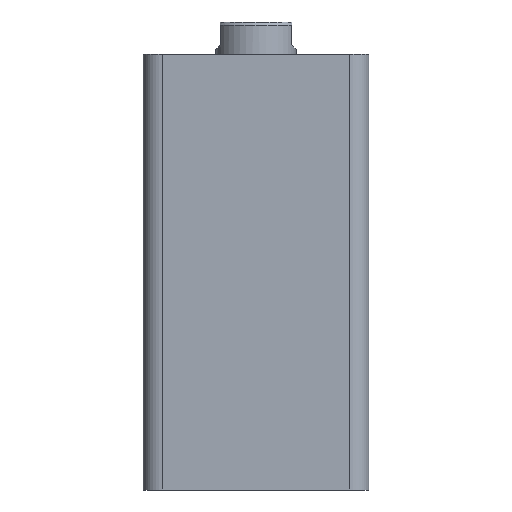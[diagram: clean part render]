
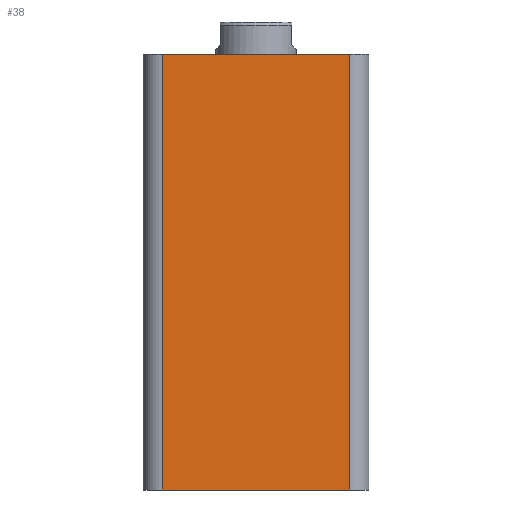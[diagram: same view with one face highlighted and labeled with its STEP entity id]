
A CAD part, front view. The second image highlights one B-rep face of the part: STEP entity #38.
In plain terms, the highlighted planar face has unit normal (0, -1, 0).
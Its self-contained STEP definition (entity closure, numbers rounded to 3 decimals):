
#38 = ADVANCED_FACE ( 'NONE', ( #1951 ), #2255, .F. ) ;
#390 = ORIENTED_EDGE ( 'NONE', *, *, #1489, .T. ) ;
#392 = ORIENTED_EDGE ( 'NONE', *, *, #1487, .T. ) ;
#393 = ORIENTED_EDGE ( 'NONE', *, *, #1486, .F. ) ;
#394 = ORIENTED_EDGE ( 'NONE', *, *, #1488, .T. ) ;
#417 = VERTEX_POINT ( 'NONE', #2598 ) ;
#443 = VERTEX_POINT ( 'NONE', #2567 ) ;
#462 = VERTEX_POINT ( 'NONE', #2546 ) ;
#515 = VERTEX_POINT ( 'NONE', #2486 ) ;
#752 = AXIS2_PLACEMENT_3D ( 'NONE', #2277, #2249, #2248 ) ;
#801 = EDGE_LOOP ( 'NONE', ( #393, #392, #394, #390 ) ) ;
#1239 = VECTOR ( 'NONE', #1710, 1000. ) ;
#1241 = VECTOR ( 'NONE', #1719, 1000. ) ;
#1242 = LINE ( 'NONE', #1717, #1239 ) ;
#1243 = VECTOR ( 'NONE', #1721, 1000. ) ;
#1245 = VECTOR ( 'NONE', #1758, 1000. ) ;
#1246 = LINE ( 'NONE', #1704, #1243 ) ;
#1248 = LINE ( 'NONE', #1766, #1245 ) ;
#1256 = LINE ( 'NONE', #2149, #1241 ) ;
#1486 = EDGE_CURVE ( 'NONE', #462, #443, #1248, .T. ) ;
#1487 = EDGE_CURVE ( 'NONE', #462, #417, #1246, .T. ) ;
#1488 = EDGE_CURVE ( 'NONE', #417, #515, #1256, .T. ) ;
#1489 = EDGE_CURVE ( 'NONE', #515, #443, #1242, .T. ) ;
#1704 = CARTESIAN_POINT ( 'NONE',  ( -29., -35., 135. ) ) ;
#1710 = DIRECTION ( 'NONE',  ( 0., 0., 1. ) ) ;
#1717 = CARTESIAN_POINT ( 'NONE',  ( 29., -35., 135. ) ) ;
#1719 = DIRECTION ( 'NONE',  ( 1., 0., 0. ) ) ;
#1721 = DIRECTION ( 'NONE',  ( 0., 0., -1. ) ) ;
#1758 = DIRECTION ( 'NONE',  ( 1., 0., 0. ) ) ;
#1766 = CARTESIAN_POINT ( 'NONE',  ( -35., -35., 135. ) ) ;
#1951 = FACE_OUTER_BOUND ( 'NONE', #801, .T. ) ;
#2149 = CARTESIAN_POINT ( 'NONE',  ( -35., -35., 0. ) ) ;
#2248 = DIRECTION ( 'NONE',  ( 0., 0., 1. ) ) ;
#2249 = DIRECTION ( 'NONE',  ( 0., 1., 0. ) ) ;
#2255 = PLANE ( 'NONE',  #752 ) ;
#2277 = CARTESIAN_POINT ( 'NONE',  ( -35., -35., 135. ) ) ;
#2486 = CARTESIAN_POINT ( 'NONE',  ( 29., -35., 0. ) ) ;
#2546 = CARTESIAN_POINT ( 'NONE',  ( -29., -35., 135. ) ) ;
#2567 = CARTESIAN_POINT ( 'NONE',  ( 29., -35., 135. ) ) ;
#2598 = CARTESIAN_POINT ( 'NONE',  ( -29., -35., 0. ) ) ;
